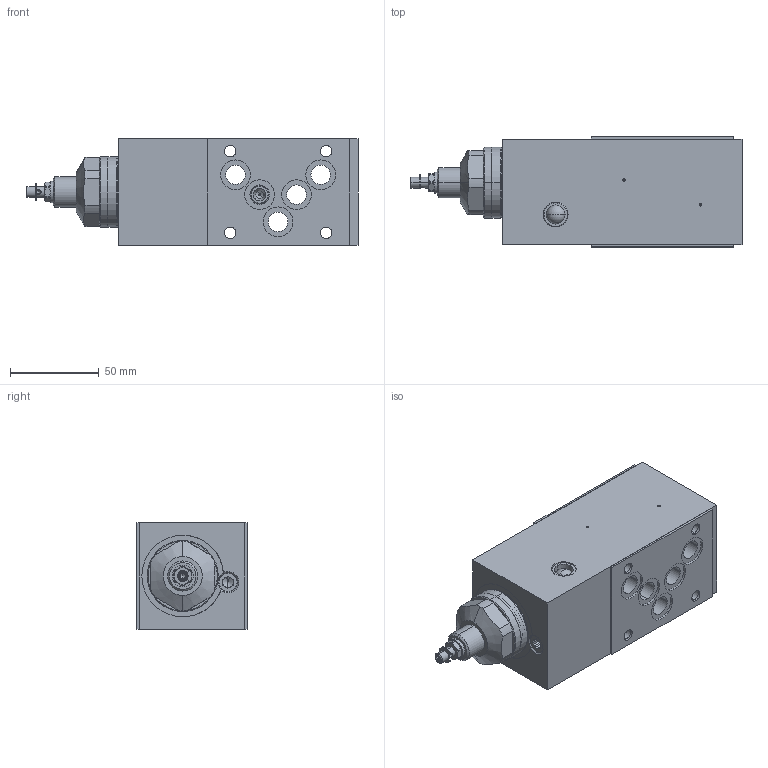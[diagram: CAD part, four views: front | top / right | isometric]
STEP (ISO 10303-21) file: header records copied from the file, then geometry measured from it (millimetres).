
FILE_DESCRIPTION (( 'STEP AP214' ), '1' );
FILE_NAME ('QZSSA401-AV.STEP', '2017-04-12T14:02:01', ( '' ), ( '' ), 'SwSTEP 2.0', 'SolidWorks 2016', '' );
FILE_SCHEMA (( 'AUTOMOTIVE_DESIGN' ));
Length unit declared in the file: millimetre
Products named in the file (1): QZSSA401-AV
Bounding box: 187 x 62 x 60 mm (x, y, z)
Volume: 482383.7 mm3; surface area: 78628.7 mm2
Topology: 5 solids, 7 shells, 361 faces, 910 edges, 573 vertices
Faces by surface type: cylinder 169, plane 114, cone 56, torus 18, sphere 4
Entity records: 15455 total; most frequent: CARTESIAN_POINT 2637, DIRECTION 1915, ORIENTED_EDGE 1788, EDGE_CURVE 894, AXIS2_PLACEMENT_3D 783, VERTEX_POINT 573, EDGE_LOOP 443, CIRCLE 421
